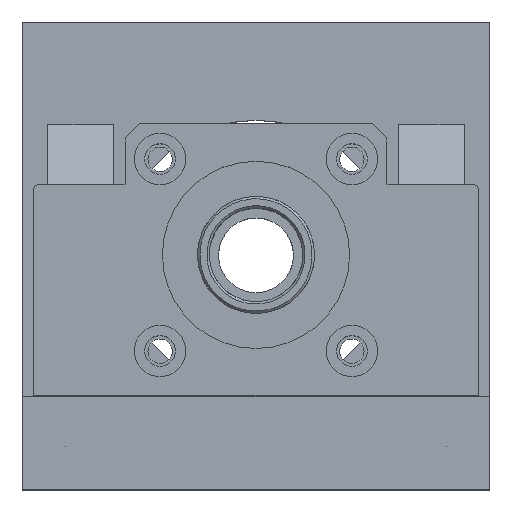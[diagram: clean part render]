
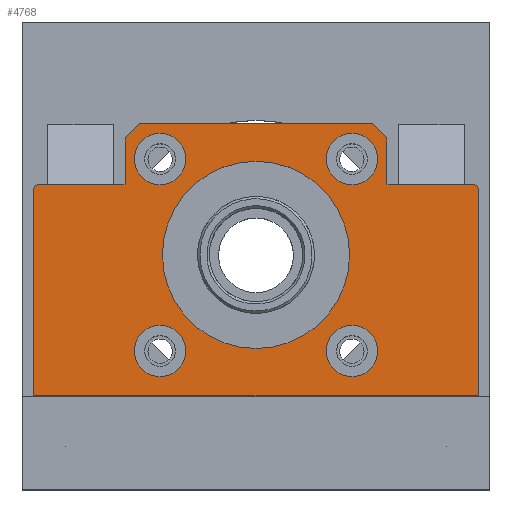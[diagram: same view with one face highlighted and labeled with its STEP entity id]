
A CAD part, top view. The second image highlights one B-rep face of the part: STEP entity #4768.
In plain terms, the highlighted planar face has unit normal (0, 0, 1).
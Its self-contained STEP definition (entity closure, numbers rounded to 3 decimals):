
#1960=DIRECTION('',(1.,0.,0.));
#1961=VECTOR('',#1960,95.);
#1962=CARTESIAN_POINT('',(-47.5,-30.,252.));
#1963=LINE('',#1962,#1961);
#2604=DIRECTION('',(0.,1.,0.));
#2605=VECTOR('',#2604,44.);
#2606=CARTESIAN_POINT('',(47.5,-30.,252.));
#2607=LINE('',#2606,#2605);
#2608=DIRECTION('',(0.707,0.707,0.));
#2609=VECTOR('',#2608,4.243);
#2610=CARTESIAN_POINT('',(-28.,25.,252.));
#2611=LINE('',#2610,#2609);
#2612=DIRECTION('',(0.707,-0.707,0.));
#2613=VECTOR('',#2612,4.243);
#2614=CARTESIAN_POINT('',(25.,28.,252.));
#2615=LINE('',#2614,#2613);
#2616=CARTESIAN_POINT('',(46.5,14.,252.));
#2617=DIRECTION('',(0.,0.,-1.));
#2618=DIRECTION('',(0.,1.,0.));
#2619=AXIS2_PLACEMENT_3D('',#2616,#2617,#2618);
#2621=CARTESIAN_POINT('',(-46.5,14.,252.));
#2622=DIRECTION('',(0.,0.,-1.));
#2623=DIRECTION('',(-1.,0.,0.));
#2624=AXIS2_PLACEMENT_3D('',#2621,#2622,#2623);
#2626=CARTESIAN_POINT('',(-20.506,-20.506,252.));
#2627=DIRECTION('',(0.,0.,1.));
#2628=DIRECTION('',(-1.,0.,0.));
#2629=AXIS2_PLACEMENT_3D('',#2626,#2627,#2628);
#2631=CARTESIAN_POINT('',(-20.506,-20.506,252.));
#2632=DIRECTION('',(0.,0.,1.));
#2633=DIRECTION('',(1.,0.,0.));
#2634=AXIS2_PLACEMENT_3D('',#2631,#2632,#2633);
#2636=CARTESIAN_POINT('',(-20.506,20.506,252.));
#2637=DIRECTION('',(0.,0.,1.));
#2638=DIRECTION('',(-1.,0.,0.));
#2639=AXIS2_PLACEMENT_3D('',#2636,#2637,#2638);
#2641=CARTESIAN_POINT('',(-20.506,20.506,252.));
#2642=DIRECTION('',(0.,0.,1.));
#2643=DIRECTION('',(1.,0.,0.));
#2644=AXIS2_PLACEMENT_3D('',#2641,#2642,#2643);
#2646=CARTESIAN_POINT('',(20.506,-20.506,252.));
#2647=DIRECTION('',(0.,0.,1.));
#2648=DIRECTION('',(-1.,0.,0.));
#2649=AXIS2_PLACEMENT_3D('',#2646,#2647,#2648);
#2651=CARTESIAN_POINT('',(20.506,-20.506,252.));
#2652=DIRECTION('',(0.,0.,1.));
#2653=DIRECTION('',(1.,0.,0.));
#2654=AXIS2_PLACEMENT_3D('',#2651,#2652,#2653);
#2656=CARTESIAN_POINT('',(0.,0.,252.));
#2657=DIRECTION('',(0.,0.,1.));
#2658=DIRECTION('',(-1.,0.,0.));
#2659=AXIS2_PLACEMENT_3D('',#2656,#2657,#2658);
#2661=CARTESIAN_POINT('',(0.,0.,252.));
#2662=DIRECTION('',(0.,0.,1.));
#2663=DIRECTION('',(1.,0.,0.));
#2664=AXIS2_PLACEMENT_3D('',#2661,#2662,#2663);
#2666=CARTESIAN_POINT('',(20.506,20.506,252.));
#2667=DIRECTION('',(0.,0.,1.));
#2668=DIRECTION('',(-1.,0.,0.));
#2669=AXIS2_PLACEMENT_3D('',#2666,#2667,#2668);
#2671=CARTESIAN_POINT('',(20.506,20.506,252.));
#2672=DIRECTION('',(0.,0.,1.));
#2673=DIRECTION('',(1.,0.,0.));
#2674=AXIS2_PLACEMENT_3D('',#2671,#2672,#2673);
#2676=DIRECTION('',(-1.,0.,0.));
#2677=VECTOR('',#2676,18.5);
#2678=CARTESIAN_POINT('',(-28.,15.,252.));
#2679=LINE('',#2678,#2677);
#2700=DIRECTION('',(0.,-1.,0.));
#2701=VECTOR('',#2700,10.);
#2702=CARTESIAN_POINT('',(-28.,25.,252.));
#2703=LINE('',#2702,#2701);
#2712=DIRECTION('',(-1.,0.,0.));
#2713=VECTOR('',#2712,50.);
#2714=CARTESIAN_POINT('',(25.,28.,252.));
#2715=LINE('',#2714,#2713);
#2724=DIRECTION('',(0.,1.,0.));
#2725=VECTOR('',#2724,10.);
#2726=CARTESIAN_POINT('',(28.,15.,252.));
#2727=LINE('',#2726,#2725);
#2732=DIRECTION('',(-1.,0.,0.));
#2733=VECTOR('',#2732,18.5);
#2734=CARTESIAN_POINT('',(46.5,15.,252.));
#2735=LINE('',#2734,#2733);
#3009=DIRECTION('',(0.,-1.,0.));
#3010=VECTOR('',#3009,44.);
#3011=CARTESIAN_POINT('',(-47.5,14.,252.));
#3012=LINE('',#3011,#3010);
#3435=CARTESIAN_POINT('',(-47.5,-30.,252.));
#3436=VERTEX_POINT('',#3435);
#3437=CARTESIAN_POINT('',(47.5,-30.,252.));
#3438=VERTEX_POINT('',#3437);
#3613=CARTESIAN_POINT('',(-20.,0.,252.));
#3614=VERTEX_POINT('',#3613);
#3615=CARTESIAN_POINT('',(20.,0.,252.));
#3616=VERTEX_POINT('',#3615);
#3617=CARTESIAN_POINT('',(-28.,15.,252.));
#3618=CARTESIAN_POINT('',(-46.5,15.,252.));
#3619=VERTEX_POINT('',#3617);
#3620=VERTEX_POINT('',#3618);
#3621=CARTESIAN_POINT('',(-28.,25.,252.));
#3622=VERTEX_POINT('',#3621);
#3623=CARTESIAN_POINT('',(-25.,28.,252.));
#3624=VERTEX_POINT('',#3623);
#3625=CARTESIAN_POINT('',(25.,28.,252.));
#3626=VERTEX_POINT('',#3625);
#3627=CARTESIAN_POINT('',(28.,25.,252.));
#3628=VERTEX_POINT('',#3627);
#3629=CARTESIAN_POINT('',(28.,15.,252.));
#3630=VERTEX_POINT('',#3629);
#3631=CARTESIAN_POINT('',(46.5,15.,252.));
#3632=VERTEX_POINT('',#3631);
#3633=CARTESIAN_POINT('',(47.5,14.,252.));
#3634=VERTEX_POINT('',#3633);
#3635=CARTESIAN_POINT('',(-47.5,14.,252.));
#3636=VERTEX_POINT('',#3635);
#3637=CARTESIAN_POINT('',(-26.006,-20.506,252.));
#3638=CARTESIAN_POINT('',(-15.006,-20.506,252.));
#3639=VERTEX_POINT('',#3637);
#3640=VERTEX_POINT('',#3638);
#3641=CARTESIAN_POINT('',(-26.006,20.506,252.));
#3642=CARTESIAN_POINT('',(-15.006,20.506,252.));
#3643=VERTEX_POINT('',#3641);
#3644=VERTEX_POINT('',#3642);
#3645=CARTESIAN_POINT('',(15.006,-20.506,252.));
#3646=CARTESIAN_POINT('',(26.006,-20.506,252.));
#3647=VERTEX_POINT('',#3645);
#3648=VERTEX_POINT('',#3646);
#3649=CARTESIAN_POINT('',(15.006,20.506,252.));
#3650=CARTESIAN_POINT('',(26.006,20.506,252.));
#3651=VERTEX_POINT('',#3649);
#3652=VERTEX_POINT('',#3650);
#4709=CARTESIAN_POINT('',(0.,0.,252.));
#4710=DIRECTION('',(0.,0.,1.));
#4711=DIRECTION('',(-1.,0.,0.));
#4712=AXIS2_PLACEMENT_3D('',#4709,#4710,#4711);
#4713=PLANE('',#4712);
#4715=ORIENTED_EDGE('',*,*,#4714,.F.);
#4717=ORIENTED_EDGE('',*,*,#4716,.F.);
#4719=ORIENTED_EDGE('',*,*,#4718,.T.);
#4721=ORIENTED_EDGE('',*,*,#4720,.F.);
#4723=ORIENTED_EDGE('',*,*,#4722,.T.);
#4725=ORIENTED_EDGE('',*,*,#4724,.F.);
#4727=ORIENTED_EDGE('',*,*,#4726,.F.);
#4729=ORIENTED_EDGE('',*,*,#4728,.T.);
#4730=ORIENTED_EDGE('',*,*,#4702,.F.);
#4731=ORIENTED_EDGE('',*,*,#3914,.F.);
#4733=ORIENTED_EDGE('',*,*,#4732,.F.);
#4735=ORIENTED_EDGE('',*,*,#4734,.T.);
#4736=EDGE_LOOP('',(#4715,#4717,#4719,#4721,#4723,#4725,#4727,#4729,#4730,#4731,
#4733,#4735));
#4737=FACE_OUTER_BOUND('',#4736,.F.);
#4739=ORIENTED_EDGE('',*,*,#4738,.T.);
#4741=ORIENTED_EDGE('',*,*,#4740,.T.);
#4742=EDGE_LOOP('',(#4739,#4741));
#4743=FACE_BOUND('',#4742,.F.);
#4745=ORIENTED_EDGE('',*,*,#4744,.T.);
#4747=ORIENTED_EDGE('',*,*,#4746,.T.);
#4748=EDGE_LOOP('',(#4745,#4747));
#4749=FACE_BOUND('',#4748,.F.);
#4751=ORIENTED_EDGE('',*,*,#4750,.T.);
#4753=ORIENTED_EDGE('',*,*,#4752,.T.);
#4754=EDGE_LOOP('',(#4751,#4753));
#4755=FACE_BOUND('',#4754,.F.);
#4757=ORIENTED_EDGE('',*,*,#4756,.T.);
#4759=ORIENTED_EDGE('',*,*,#4758,.T.);
#4760=EDGE_LOOP('',(#4757,#4759));
#4761=FACE_BOUND('',#4760,.F.);
#4763=ORIENTED_EDGE('',*,*,#4762,.T.);
#4765=ORIENTED_EDGE('',*,*,#4764,.T.);
#4766=EDGE_LOOP('',(#4763,#4765));
#4767=FACE_BOUND('',#4766,.F.);
#2620=CIRCLE('',#2619,1.);
#2625=CIRCLE('',#2624,1.);
#2630=CIRCLE('',#2629,5.5);
#2635=CIRCLE('',#2634,5.5);
#2640=CIRCLE('',#2639,5.5);
#2645=CIRCLE('',#2644,5.5);
#2650=CIRCLE('',#2649,5.5);
#2655=CIRCLE('',#2654,5.5);
#2660=CIRCLE('',#2659,20.);
#2665=CIRCLE('',#2664,20.);
#2670=CIRCLE('',#2669,5.5);
#2675=CIRCLE('',#2674,5.5);
#3914=EDGE_CURVE('',#3436,#3438,#1963,.T.);
#4702=EDGE_CURVE('',#3438,#3634,#2607,.T.);
#4714=EDGE_CURVE('',#3619,#3620,#2679,.T.);
#4716=EDGE_CURVE('',#3622,#3619,#2703,.T.);
#4718=EDGE_CURVE('',#3622,#3624,#2611,.T.);
#4720=EDGE_CURVE('',#3626,#3624,#2715,.T.);
#4722=EDGE_CURVE('',#3626,#3628,#2615,.T.);
#4724=EDGE_CURVE('',#3630,#3628,#2727,.T.);
#4726=EDGE_CURVE('',#3632,#3630,#2735,.T.);
#4728=EDGE_CURVE('',#3632,#3634,#2620,.T.);
#4732=EDGE_CURVE('',#3636,#3436,#3012,.T.);
#4734=EDGE_CURVE('',#3636,#3620,#2625,.T.);
#4738=EDGE_CURVE('',#3639,#3640,#2630,.T.);
#4740=EDGE_CURVE('',#3640,#3639,#2635,.T.);
#4744=EDGE_CURVE('',#3643,#3644,#2640,.T.);
#4746=EDGE_CURVE('',#3644,#3643,#2645,.T.);
#4750=EDGE_CURVE('',#3647,#3648,#2650,.T.);
#4752=EDGE_CURVE('',#3648,#3647,#2655,.T.);
#4756=EDGE_CURVE('',#3614,#3616,#2660,.T.);
#4758=EDGE_CURVE('',#3616,#3614,#2665,.T.);
#4762=EDGE_CURVE('',#3651,#3652,#2670,.T.);
#4764=EDGE_CURVE('',#3652,#3651,#2675,.T.);
#4768=ADVANCED_FACE('',(#4737,#4743,#4749,#4755,#4761,#4767),#4713,.T.);
